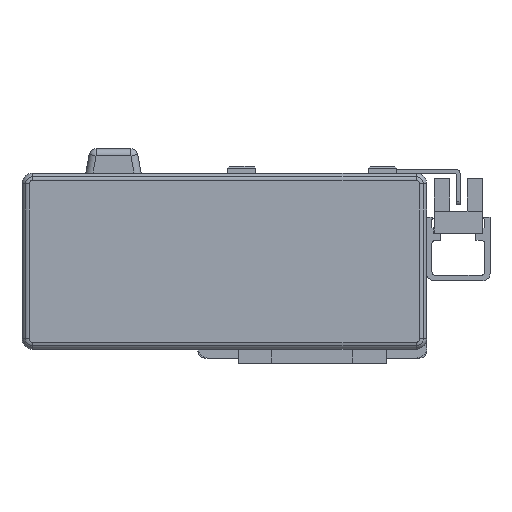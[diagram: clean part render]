
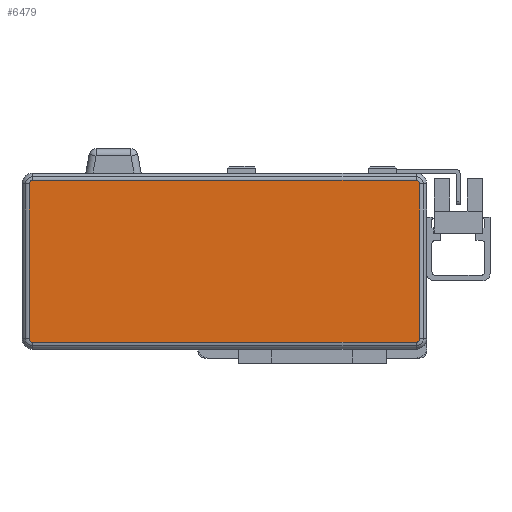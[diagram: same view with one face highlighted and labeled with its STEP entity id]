
A CAD part, left-side view. The second image highlights one B-rep face of the part: STEP entity #6479.
In plain terms, the highlighted planar face has unit normal (-1, 0, 0) as drawn and (0, 0, 1) by its records, which use the part's own axes.
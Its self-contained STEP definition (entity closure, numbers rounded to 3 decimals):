
#319 = DIRECTION ( 'NONE',  ( 0., 0., 1. ) ) ;
#1013 = CARTESIAN_POINT ( 'NONE',  ( 54.5, 22., 40. ) ) ;
#1976 = VERTEX_POINT ( 'NONE', #17150 ) ;
#2709 = DIRECTION ( 'NONE',  ( 0., 0., -1. ) ) ;
#3054 = EDGE_CURVE ( 'NONE', #16198, #11919, #26625, .T. ) ;
#3112 = EDGE_CURVE ( 'NONE', #11919, #19243, #26190, .T. ) ;
#3227 = EDGE_CURVE ( 'NONE', #19243, #19404, #25493, .T. ) ;
#3311 = EDGE_CURVE ( 'NONE', #19404, #1976, #25280, .T. ) ;
#3317 = EDGE_CURVE ( 'NONE', #1976, #23769, #25321, .T. ) ;
#3370 = EDGE_CURVE ( 'NONE', #23769, #9495, #25071, .T. ) ;
#3426 = EDGE_CURVE ( 'NONE', #9495, #21857, #24979, .T. ) ;
#3520 = EDGE_CURVE ( 'NONE', #21857, #16198, #24648, .T. ) ;
#3672 = DIRECTION ( 'NONE',  ( -1., 0., 0. ) ) ;
#4323 = CARTESIAN_POINT ( 'NONE',  ( -55.5, 0., 40. ) ) ;
#4534 = DIRECTION ( 'NONE',  ( 0., 0., 1. ) ) ;
#5170 = DIRECTION ( 'NONE',  ( 1., 0., 0. ) ) ;
#6479 = ADVANCED_FACE ( 'NONE', ( #14137 ), #26393, .F. ) ;
#9495 = VERTEX_POINT ( 'NONE', #21974 ) ;
#11441 = CARTESIAN_POINT ( 'NONE',  ( -54.5, 23., 40. ) ) ;
#11919 = VERTEX_POINT ( 'NONE', #13850 ) ;
#11946 = CARTESIAN_POINT ( 'NONE',  ( 0., -23., 40. ) ) ;
#13700 = CARTESIAN_POINT ( 'NONE',  ( -55.5, -22., 40. ) ) ;
#13850 = CARTESIAN_POINT ( 'NONE',  ( 54.5, -23., 40. ) ) ;
#14061 = ORIENTED_EDGE ( 'NONE', *, *, #3054, .T. ) ;
#14137 = FACE_OUTER_BOUND ( 'NONE', #21999, .T. ) ;
#14436 = ORIENTED_EDGE ( 'NONE', *, *, #3112, .T. ) ;
#14570 = AXIS2_PLACEMENT_3D ( 'NONE', #16530, #2709, #18622 ) ;
#14580 = CARTESIAN_POINT ( 'NONE',  ( 54.5, -22., 40. ) ) ;
#14639 = ORIENTED_EDGE ( 'NONE', *, *, #3227, .T. ) ;
#14727 = ORIENTED_EDGE ( 'NONE', *, *, #3311, .T. ) ;
#14956 = ORIENTED_EDGE ( 'NONE', *, *, #3317, .T. ) ;
#14974 = DIRECTION ( 'NONE',  ( 0., 1., 0. ) ) ;
#15034 = ORIENTED_EDGE ( 'NONE', *, *, #3370, .T. ) ;
#15161 = DIRECTION ( 'NONE',  ( -1., 0., 0. ) ) ;
#15441 = ORIENTED_EDGE ( 'NONE', *, *, #3426, .T. ) ;
#15604 = ORIENTED_EDGE ( 'NONE', *, *, #3520, .T. ) ;
#16198 = VERTEX_POINT ( 'NONE', #19285 ) ;
#16530 = CARTESIAN_POINT ( 'NONE',  ( 0., 0., 40. ) ) ;
#16733 = DIRECTION ( 'NONE',  ( -1., 0., 0. ) ) ;
#17150 = CARTESIAN_POINT ( 'NONE',  ( 54.5, 23., 40. ) ) ;
#17272 = DIRECTION ( 'NONE',  ( 0., 0., 1. ) ) ;
#17456 = CARTESIAN_POINT ( 'NONE',  ( -54.5, 22., 40. ) ) ;
#17841 = DIRECTION ( 'NONE',  ( 0., -1., 0. ) ) ;
#18018 = CARTESIAN_POINT ( 'NONE',  ( -54.5, -22., 40. ) ) ;
#18622 = DIRECTION ( 'NONE',  ( -1., 0., 0. ) ) ;
#19243 = VERTEX_POINT ( 'NONE', #24301 ) ;
#19285 = CARTESIAN_POINT ( 'NONE',  ( -54.5, -23., 40. ) ) ;
#19317 = CARTESIAN_POINT ( 'NONE',  ( 0., 23., 40. ) ) ;
#19404 = VERTEX_POINT ( 'NONE', #24540 ) ;
#19808 = AXIS2_PLACEMENT_3D ( 'NONE', #18018, #4534, #20081 ) ;
#20071 = AXIS2_PLACEMENT_3D ( 'NONE', #17456, #27505, #28339 ) ;
#20081 = DIRECTION ( 'NONE',  ( -1., 0., 0. ) ) ;
#20106 = AXIS2_PLACEMENT_3D ( 'NONE', #1013, #17272, #3672 ) ;
#20396 = AXIS2_PLACEMENT_3D ( 'NONE', #14580, #319, #16733 ) ;
#21158 = CARTESIAN_POINT ( 'NONE',  ( 55.5, 0., 40. ) ) ;
#21857 = VERTEX_POINT ( 'NONE', #13700 ) ;
#21974 = CARTESIAN_POINT ( 'NONE',  ( -55.5, 22., 40. ) ) ;
#21999 = EDGE_LOOP ( 'NONE', ( #14061, #14436, #14639, #14727, #14956, #15034, #15441, #15604 ) ) ;
#23769 = VERTEX_POINT ( 'NONE', #11441 ) ;
#24301 = CARTESIAN_POINT ( 'NONE',  ( 55.5, -22., 40. ) ) ;
#24540 = CARTESIAN_POINT ( 'NONE',  ( 55.5, 22., 40. ) ) ;
#24648 = CIRCLE ( 'NONE', #19808, 1. ) ;
#24909 = VECTOR ( 'NONE', #17841, 1000. ) ;
#24979 = LINE ( 'NONE', #4323, #24909 ) ;
#25071 = CIRCLE ( 'NONE', #20071, 1. ) ;
#25231 = VECTOR ( 'NONE', #15161, 1000. ) ;
#25280 = CIRCLE ( 'NONE', #20106, 1. ) ;
#25321 = LINE ( 'NONE', #19317, #25231 ) ;
#25473 = VECTOR ( 'NONE', #14974, 1000. ) ;
#25493 = LINE ( 'NONE', #21158, #25473 ) ;
#26165 = VECTOR ( 'NONE', #5170, 1000. ) ;
#26190 = CIRCLE ( 'NONE', #20396, 1. ) ;
#26393 = PLANE ( 'NONE',  #14570 ) ;
#26625 = LINE ( 'NONE', #11946, #26165 ) ;
#27505 = DIRECTION ( 'NONE',  ( 0., 0., 1. ) ) ;
#28339 = DIRECTION ( 'NONE',  ( -1., 0., 0. ) ) ;
